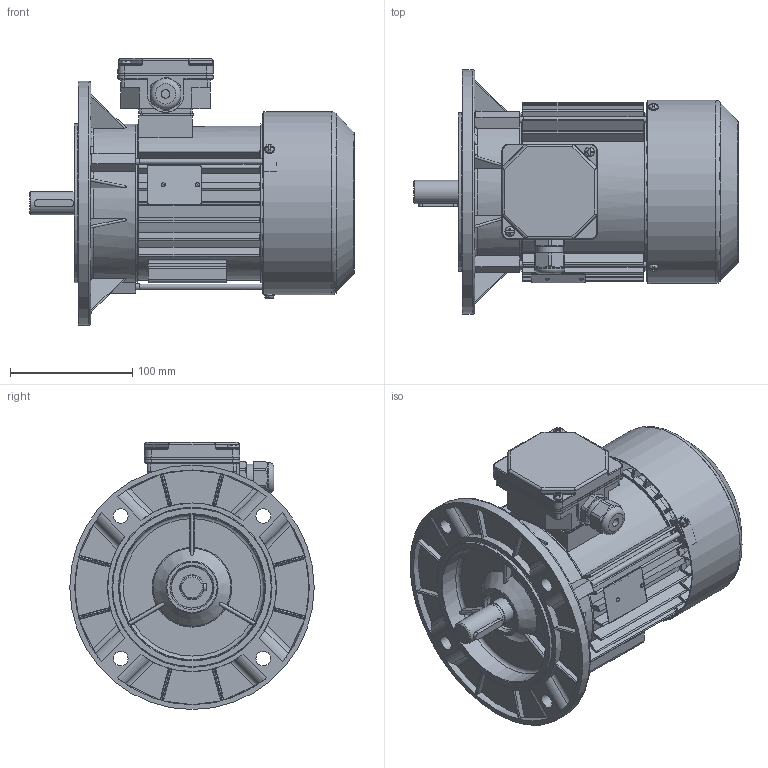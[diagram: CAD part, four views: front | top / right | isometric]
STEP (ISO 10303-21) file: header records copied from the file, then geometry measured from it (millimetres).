
FILE_DESCRIPTION( ( 'Unknown' ), '1' );
FILE_NAME( 'G:/Poczta Tk-1/STP/w.m.80/Sh80/SKh80-.A.stp', 'Unknown', ( 'K. Szlosek' ), ( 'BESEL S.A.' ), 'PSStep 17.0.49', 'Unknown', ' ' );
FILE_SCHEMA( ( 'AUTOMOTIVE_DESIGN { 1 0 10303 214 1 1 1 1 }' ) );
Length unit declared in the file: millimetre
Products named in the file (29): skrznka zaciskowa trójfazowa ; K4-2820 Uszczelka nr 2 Sh71,80; Dławnica M20x1,5; K2-0859 Podstawa skrzynki 6-cio zaciskowej; K2-0860 Pokrywka skrzynki zaciskowej; Assem1; K1-1257 Kadłub S(E,M)h80-A i B; K2-2027 Tarcza łożyskowa P S(E,M)h80-.A,C; K4-2320 Uszczelka nr 1 Sh71,80; Wkręt samogwintujący M4x16; Nitokołek A 2x6; Wkręt samogwintujący M4x8; K3-7038 wał standard Sh80-A; Wpust A6x6x32; K3-4025 Przewietrznik Sg,h80; K4-4489 Osłona przewietrznika Sh80,90-A,C; K1-1258  zmiana Tarcza kołnierzowa B5 SKh80-..; Tabliczka znamionowa 32x44; Łożysko 6204; Śruba ściągająca E_M5x130
Assembly tree (44 placements, depth 3):
  Assem1
    K1-1257 Kadłub S(E,M)h80-A i B
    K2-2027 Tarcza łożyskowa P S(E,M)h80-.A,C
    K4-2320 Uszczelka nr 1 Sh71,80
    Wkręt samogwintujący M4x16  x2
    Nitokołek A 2x6  x2
    Wkręt samogwintujący M4x8  x3
    K3-7038 wał standard Sh80-A
    Wpust A6x6x32
    K3-4025 Przewietrznik Sg,h80
    K4-4489 Osłona przewietrznika Sh80,90-A,C
    K1-1258  zmiana Tarcza kołnierzowa B5 SKh80-..
    Tabliczka znamionowa 32x44
    Łożysko 6204  x2
    Łożysko 6204  x2
    Łożysko 6204  x2
    Łożysko 6204  x2
    Łożysko 6204  x2
    Łożysko 6204  x2
    Łożysko 6204  x2
    Łożysko 6204  x2
    Łożysko 6204  x2
    Łożysko 6204  x2
    Śruba ściągająca E_M5x130  x3
    skrznka zaciskowa trójfazowa 
      K4-2820 Uszczelka nr 2 Sh71,80
      Dławnica M20x1,5
      K2-0859 Podstawa skrzynki 6-cio zaciskowej
      K2-0860 Pokrywka skrzynki zaciskowej
Bounding box: 265.8 x 200 x 218.5 mm (x, y, z)
Volume: 899742.2 mm3; surface area: 544285.6 mm2
Topology: 43 solids, 59 shells, 2366 faces, 6496 edges, 4194 vertices
Faces by surface type: plane 1178, cylinder 795, bspline 137, torus 116, cone 106, sphere 34
Full cylindrical faces by diameter (mm): 2 x2, 2.4 x2, 3 x1, 3.7 x11, 4 x5, 4.134 x3, 4.5 x1, 4.6 x3, 4.8 x4, 5 x7, 5.5 x3, 7 x1, 8 x9, 12 x4, 18.376 x1, 18.38 x1, 18.6 x1, 19 x1, 19.3 x1, 19.5 x2, 19.9 x1, 20 x5, 20.3 x2, 20.4 x4, 22.3 x1, 25 x1, 25.5 x1, 25.65 x1, 26 x3, 26.05 x1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
Entity records: 111605 total; most frequent: CARTESIAN_POINT 38634, ORIENTED_EDGE 11492, DIRECTION 11111, EDGE_CURVE 5746, AXIS2_PLACEMENT_3D 4031, VERTEX_POINT 3878, LINE 3049, VECTOR 3049
